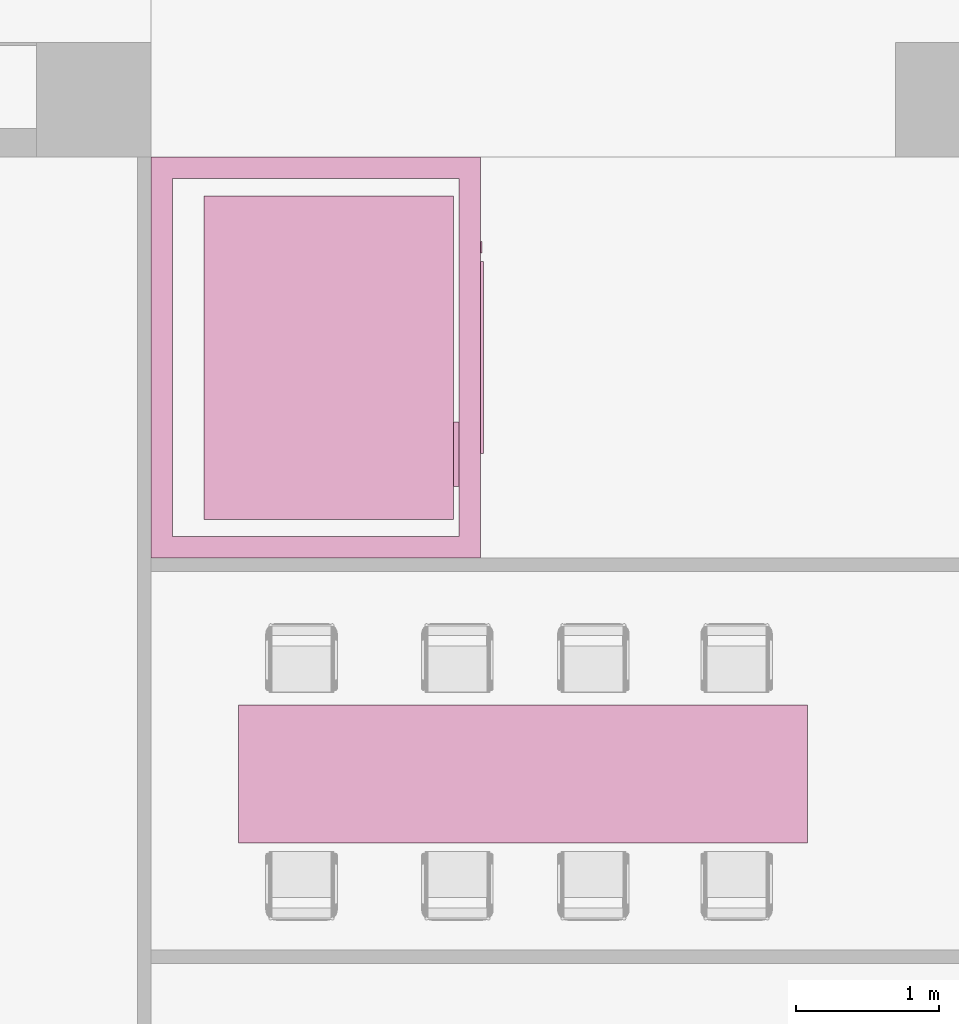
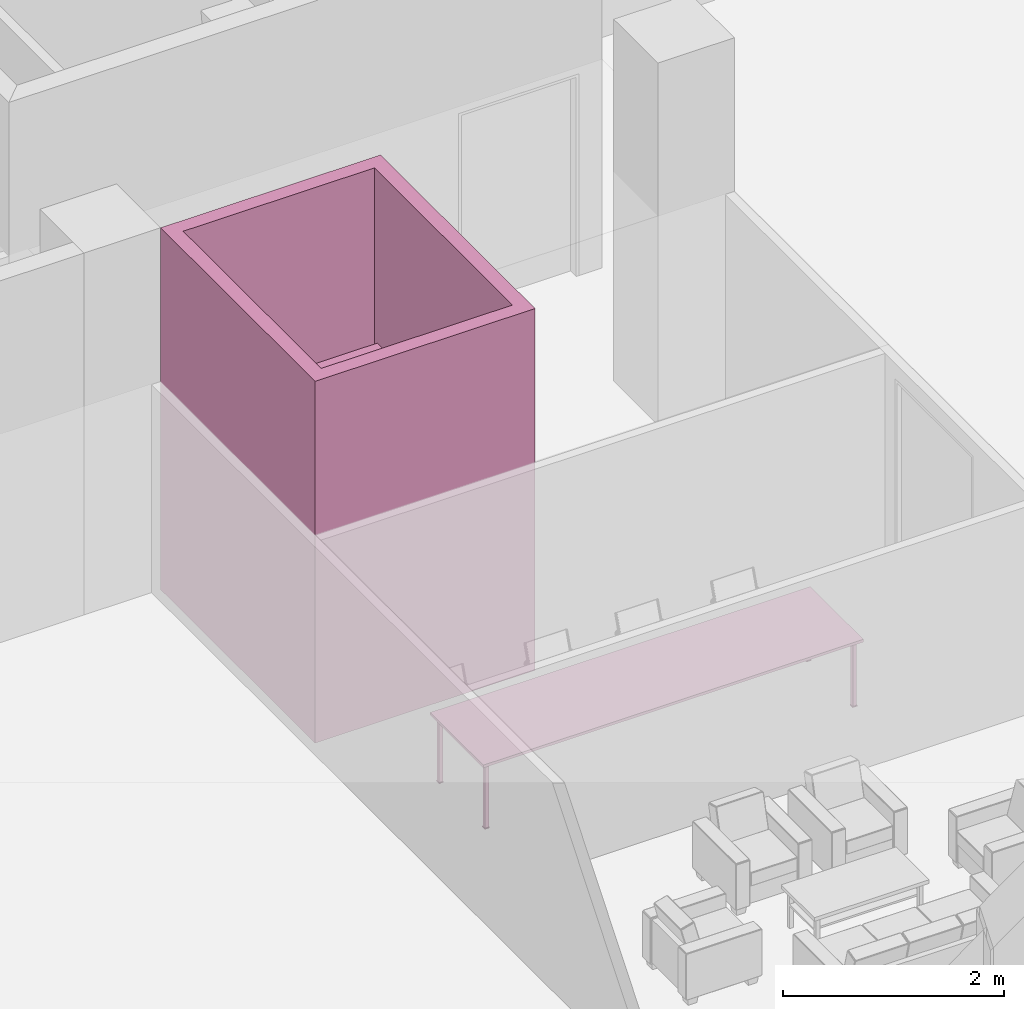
# One storey, part 12 of 17: 1 furnishing, 1 transport element.
"""IFC2X3 building model written with IfcOpenShell, lengths in millimetres."""

from ifc_helpers import new_model, entity, si_unit, converted_unit, direction, frame, origin_with_axes, place, context, project, spatial, faceted_brep, source, transform, mapped, material, type_object, element, save


model = new_model("IFC2X3")

# Units and contexts
model_context = context("Model", 3, precision=1e-05, world=origin_with_axes(), true_north=direction((0.0, 1.0)))
ifc_project = project(units=[si_unit("LENGTHUNIT", "METRE", prefix="MILLI"), si_unit("AREAUNIT", "SQUARE_METRE"), si_unit("VOLUMEUNIT", "CUBIC_METRE"), converted_unit("PLANEANGLEUNIT", "DEGREE", entity("IfcPlaneAngleMeasure", 0.017453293), si_unit("PLANEANGLEUNIT", "RADIAN"), dimensions=[0, 0, 0, 0, 0, 0, 0]), si_unit("SOLIDANGLEUNIT", "STERADIAN"), si_unit("MASSUNIT", "GRAM"), si_unit("TIMEUNIT", "SECOND"), si_unit("THERMODYNAMICTEMPERATUREUNIT", "DEGREE_CELSIUS"), si_unit("LUMINOUSINTENSITYUNIT", "LUMEN")], contexts=[model_context])

# Site, building, storey
site_placement = place(None, origin_with_axes())
site = spatial("IfcSite", under=ifc_project, at=site_placement, Name="\x83T\x83C\x83g", CompositionType="ELEMENT")
building_placement = place(site_placement, origin_with_axes())
building = spatial("IfcBuilding", under=site, at=building_placement, Name="Daitec-Sample 201208", CompositionType="ELEMENT")
storey_placement = place(building_placement, origin_with_axes())
storey = spatial("IfcBuildingStorey", under=building, at=storey_placement, Name="1F", CompositionType="ELEMENT", Elevation=0.0)

# Furnishing
ifc_material = material(Name="\x94w\x8ci")
furniture_type = type_object("IfcFurnitureType", AssemblyPlace="NOTDEFINED")
shared_shape = source(origin_with_axes(), model_context, "Body", "Brep", [
    faceted_brep([(0.0, 0.0, 750.0), (-3974.8938, 0.0, 750.0), (-3974.8938, 0.0, 720.0), (0.0, 0.0, 720.0), (0.0, 962.32139, 750.0), (-3974.8938, 962.32139, 750.0), (-3974.8938, 962.32139, 720.0), (0.0, 962.32139, 720.0)], [[[0, 1, 2, 3]], [[0, 4, 5, 1]], [[1, 5, 6, 2]], [[3, 2, 6, 7]], [[4, 0, 3, 7]], [[5, 4, 7, 6]]]),
    faceted_brep([(-85.0, 45.0, 10.0), (-85.0, 85.0, 10.0), (-45.0, 85.0, 10.0), (-45.0, 45.0, 10.0), (-85.0, 45.0, 720.0), (-85.0, 85.0, 720.0), (-45.0, 85.0, 720.0), (-45.0, 45.0, 720.0)], [[[0, 1, 2, 3]], [[0, 4, 5, 1]], [[1, 5, 6, 2]], [[2, 6, 7, 3]], [[3, 7, 4, 0]], [[7, 6, 5, 4]]]),
    faceted_brep([(-90.0, 40.0, 0.0), (-90.0, 90.0, 0.0), (-40.0, 90.0, 0.0), (-40.0, 40.0, 0.0), (-90.0, 40.0, 10.0), (-90.0, 90.0, 10.0), (-40.0, 90.0, 10.0), (-40.0, 40.0, 10.0)], [[[0, 1, 2, 3]], [[0, 4, 5, 1]], [[1, 5, 6, 2]], [[2, 6, 7, 3]], [[3, 7, 4, 0]], [[7, 6, 5, 4]]]),
    faceted_brep([(-3929.8938, 45.0, 10.0), (-3929.8938, 85.0, 10.0), (-3889.8938, 85.0, 10.0), (-3889.8938, 45.0, 10.0), (-3929.8938, 45.0, 720.0), (-3929.8938, 85.0, 720.0), (-3889.8938, 85.0, 720.0), (-3889.8938, 45.0, 720.0)], [[[0, 1, 2, 3]], [[0, 4, 5, 1]], [[1, 5, 6, 2]], [[2, 6, 7, 3]], [[3, 7, 4, 0]], [[7, 6, 5, 4]]]),
    faceted_brep([(-3934.8938, 40.0, 0.0), (-3934.8938, 90.0, 0.0), (-3884.8938, 90.0, 0.0), (-3884.8938, 40.0, 0.0), (-3934.8938, 40.0, 10.0), (-3934.8938, 90.0, 10.0), (-3884.8938, 90.0, 10.0), (-3884.8938, 40.0, 10.0)], [[[0, 1, 2, 3]], [[0, 4, 5, 1]], [[1, 5, 6, 2]], [[2, 6, 7, 3]], [[3, 7, 4, 0]], [[7, 6, 5, 4]]]),
    faceted_brep([(-3929.8938, 877.32139, 10.0), (-3929.8938, 917.32139, 10.0), (-3889.8938, 917.32139, 10.0), (-3889.8938, 877.32139, 10.0), (-3929.8938, 877.32139, 720.0), (-3929.8938, 917.32139, 720.0), (-3889.8938, 917.32139, 720.0), (-3889.8938, 877.32139, 720.0)], [[[0, 1, 2, 3]], [[0, 4, 5, 1]], [[1, 5, 6, 2]], [[2, 6, 7, 3]], [[3, 7, 4, 0]], [[7, 6, 5, 4]]]),
    faceted_brep([(-3934.8938, 872.32139, 0.0), (-3934.8938, 922.32139, 0.0), (-3884.8938, 922.32139, 0.0), (-3884.8938, 872.32139, 0.0), (-3934.8938, 872.32139, 10.0), (-3934.8938, 922.32139, 10.0), (-3884.8938, 922.32139, 10.0), (-3884.8938, 872.32139, 10.0)], [[[0, 1, 2, 3]], [[0, 4, 5, 1]], [[1, 5, 6, 2]], [[2, 6, 7, 3]], [[3, 7, 4, 0]], [[7, 6, 5, 4]]]),
    faceted_brep([(-85.0, 877.32139, 10.0), (-85.0, 917.32139, 10.0), (-45.0, 917.32139, 10.0), (-45.0, 877.32139, 10.0), (-85.0, 877.32139, 720.0), (-85.0, 917.32139, 720.0), (-45.0, 917.32139, 720.0), (-45.0, 877.32139, 720.0)], [[[0, 1, 2, 3]], [[0, 4, 5, 1]], [[1, 5, 6, 2]], [[2, 6, 7, 3]], [[3, 7, 4, 0]], [[7, 6, 5, 4]]]),
    faceted_brep([(-90.0, 872.32139, 0.0), (-90.0, 922.32139, 0.0), (-40.0, 922.32139, 0.0), (-40.0, 872.32139, 0.0), (-90.0, 872.32139, 10.0), (-90.0, 922.32139, 10.0), (-40.0, 922.32139, 10.0), (-40.0, 872.32139, 10.0)], [[[0, 1, 2, 3]], [[0, 4, 5, 1]], [[1, 5, 6, 2]], [[2, 6, 7, 3]], [[3, 7, 4, 0]], [[7, 6, 5, 4]]]),
])
furnishing_placement = place(storey_placement, frame((25509.13, 14172.327, 0.0), z_axis=(0.0, 0.0, 1.0), x_axis=(-1.0, 0.0, 0.0)))
element("IfcFurnishingElement", 1, at=furnishing_placement, inside=storey, type_object=furniture_type, material=ifc_material, Name="O2", context=model_context, shape_type="MappedRepresentation", body=[
    mapped(shared_shape, transform((0.0, 0.0, 0.0))),
])

# Transport element
transport_element_placement = place(storey_placement, frame((27200.0, 15200.0, 0.0), z_axis=(0.0, 0.0, 1.0), x_axis=(0.0, 1.0, 0.0)))
element("IfcTransportElement", 2, at=transport_element_placement, inside=storey, material=ifc_material, Name="O1", OperationType="NOTDEFINED", context=model_context, shape_type="Brep", body=[
    faceted_brep([(950.0, 210.0, 0.0), (500.0, 210.0, 0.0), (500.0, 210.0, 2000.0), (950.0, 210.0, 2000.0), (950.0, 190.0, 0.0), (500.0, 190.0, 0.0), (500.0, 190.0, 2000.0), (950.0, 190.0, 2000.0)], [[[0, 1, 2, 3]], [[1, 0, 4, 5]], [[2, 1, 5, 6]], [[3, 2, 6, 7]], [[0, 3, 7, 4]], [[5, 4, 7, 6]]]),
    faceted_brep([(950.0, 230.0, 0.0), (500.0, 230.0, 0.0), (500.0, 230.0, 2000.0), (950.0, 230.0, 2000.0), (950.0, 210.0, 0.0), (500.0, 210.0, 0.0), (500.0, 210.0, 2000.0), (950.0, 210.0, 2000.0)], [[[0, 1, 2, 3]], [[1, 0, 4, 5]], [[2, 1, 5, 6]], [[3, 2, 6, 7]], [[0, 3, 7, 4]], [[5, 4, 7, 6]]]),
    faceted_brep([(350.0, 270.0, 0.0), (950.0, 270.0, 0.0), (950.0, 230.0, 0.0), (500.0, 230.0, 0.0), (500.0, 190.0, 0.0), (270.0, 190.0, 0.0), (270.0, 1930.0, 0.0), (2530.0, 1930.0, 0.0), (2530.0, 190.0, 0.0), (1850.0, 190.0, 0.0), (1850.0, 270.0, 0.0), (2450.0, 270.0, 0.0), (2450.0, 1850.0, 0.0), (350.0, 1850.0, 0.0), (350.0, 270.0, 2100.0), (2450.0, 270.0, 2100.0), (1850.0, 270.0, 2000.0), (950.0, 270.0, 2000.0), (950.0, 230.0, 2000.0), (500.0, 230.0, 2000.0), (500.0, 190.0, 2000.0), (1850.0, 190.0, 2000.0), (2530.0, 190.0, 2100.0), (270.0, 190.0, 2100.0), (270.0, 1930.0, 2100.0), (2530.0, 1930.0, 2100.0), (2450.0, 1850.0, 2100.0), (350.0, 1850.0, 2100.0)], [[[0, 1, 2, 3, 4, 5, 6, 7, 8, 9, 10, 11, 12, 13]], [[14, 15, 11, 10, 16, 17, 1, 0]], [[1, 17, 18, 2]], [[3, 2, 18, 19]], [[3, 19, 20, 4]], [[20, 21, 9, 8, 22, 23, 5, 4]], [[5, 23, 24, 6]], [[6, 24, 25, 7]], [[7, 25, 22, 8]], [[16, 10, 9, 21]], [[15, 26, 12, 11]], [[26, 27, 13, 12]], [[27, 14, 0, 13]], [[22, 25, 24, 23], [27, 26, 15, 14]], [[17, 16, 21, 20, 19, 18]]]),
    faceted_brep([(270.0, 190.0, -50.0), (2530.0, 190.0, -50.0), (2530.0, 190.0, 0.0), (270.0, 190.0, 0.0), (270.0, 1930.0, -50.0), (2530.0, 1930.0, -50.0), (2530.0, 1930.0, 0.0), (270.0, 1930.0, 0.0)], [[[0, 1, 2, 3]], [[0, 4, 5, 1]], [[1, 5, 6, 2]], [[3, 2, 6, 7]], [[4, 0, 3, 7]], [[5, 4, 7, 6]]]),
    faceted_brep([(270.0, 190.0, 2100.0), (2530.0, 190.0, 2100.0), (2530.0, 190.0, 2150.0), (270.0, 190.0, 2150.0), (270.0, 1930.0, 2100.0), (2530.0, 1930.0, 2100.0), (2530.0, 1930.0, 2150.0), (270.0, 1930.0, 2150.0)], [[[0, 1, 2, 3]], [[0, 4, 5, 1]], [[1, 5, 6, 2]], [[3, 2, 6, 7]], [[4, 0, 3, 7]], [[5, 4, 7, 6]]]),
    faceted_brep([(2450.0, 370.0, 1000.0), (2450.0, 470.0, 1000.0), (2450.0, 470.0, 1075.0), (2450.0, 370.0, 1075.0), (2440.0, 370.0, 1000.0), (2440.0, 470.0, 1000.0), (2440.0, 470.0, 1075.0), (2440.0, 370.0, 1075.0)], [[[0, 1, 2, 3]], [[1, 0, 4, 5]], [[2, 1, 5, 6]], [[3, 2, 6, 7]], [[0, 3, 7, 4]], [[5, 4, 7, 6]]]),
    faceted_brep([(2440.0, 450.42893, 1005.4289), (2440.0, 450.42893, 1019.5711), (2435.0, 451.84315, 1018.1569), (2435.0, 451.84315, 1006.8431), (2440.0, 464.57107, 1005.4289), (2440.0, 464.57107, 1019.5711), (2435.0, 463.15685, 1018.1569), (2435.0, 463.15685, 1006.8431)], [[[0, 1, 2, 3]], [[0, 4, 5, 1]], [[1, 5, 6, 2]], [[3, 2, 6, 7]], [[4, 0, 3, 7]], [[5, 4, 7, 6]]]),
    faceted_brep([(2440.0, 425.42893, 1005.4289), (2440.0, 425.42893, 1019.5711), (2435.0, 426.84315, 1018.1569), (2435.0, 426.84315, 1006.8431), (2440.0, 439.57107, 1005.4289), (2440.0, 439.57107, 1019.5711), (2435.0, 438.15685, 1018.1569), (2435.0, 438.15685, 1006.8431)], [[[0, 1, 2, 3]], [[0, 4, 5, 1]], [[1, 5, 6, 2]], [[3, 2, 6, 7]], [[4, 0, 3, 7]], [[5, 4, 7, 6]]]),
    faceted_brep([(2440.0, 400.42893, 1005.4289), (2440.0, 400.42893, 1019.5711), (2435.0, 401.84315, 1018.1569), (2435.0, 401.84315, 1006.8431), (2440.0, 414.57107, 1005.4289), (2440.0, 414.57107, 1019.5711), (2435.0, 413.15685, 1018.1569), (2435.0, 413.15685, 1006.8431)], [[[0, 1, 2, 3]], [[0, 4, 5, 1]], [[1, 5, 6, 2]], [[3, 2, 6, 7]], [[4, 0, 3, 7]], [[5, 4, 7, 6]]]),
    faceted_brep([(2440.0, 375.42893, 1005.4289), (2440.0, 375.42893, 1019.5711), (2435.0, 376.84315, 1018.1569), (2435.0, 376.84315, 1006.8431), (2440.0, 389.57107, 1005.4289), (2440.0, 389.57107, 1019.5711), (2435.0, 388.15685, 1018.1569), (2435.0, 388.15685, 1006.8431)], [[[0, 1, 2, 3]], [[0, 4, 5, 1]], [[1, 5, 6, 2]], [[3, 2, 6, 7]], [[4, 0, 3, 7]], [[5, 4, 7, 6]]]),
    faceted_brep([(2440.0, 450.42893, 1055.4289), (2440.0, 450.42893, 1069.5711), (2435.0, 451.84315, 1068.1569), (2435.0, 451.84315, 1056.8431), (2440.0, 464.57107, 1055.4289), (2440.0, 464.57107, 1069.5711), (2435.0, 463.15685, 1068.1569), (2435.0, 463.15685, 1056.8431)], [[[0, 1, 2, 3]], [[0, 4, 5, 1]], [[1, 5, 6, 2]], [[3, 2, 6, 7]], [[4, 0, 3, 7]], [[5, 4, 7, 6]]]),
    faceted_brep([(770.0, 150.0, 0.0), (950.0, 150.0, 0.0), (950.0, 90.0, 0.0), (770.0, 90.0, 0.0), (770.0, 150.0, 2180.0), (2030.0, 150.0, 2180.0), (2030.0, 150.0, 0.0), (1850.0, 150.0, 0.0), (1850.0, 150.0, 2000.0), (950.0, 150.0, 2000.0), (950.0, 90.0, 2000.0), (1850.0, 90.0, 2000.0), (1850.0, 90.0, 0.0), (2030.0, 90.0, 0.0), (2030.0, 90.0, 2180.0), (770.0, 90.0, 2180.0)], [[[0, 1, 2, 3]], [[0, 4, 5, 6, 7, 8, 9, 1]], [[1, 9, 10, 2]], [[3, 2, 10, 11, 12, 13, 14, 15]], [[4, 0, 3, 15]], [[5, 4, 15, 14]], [[6, 5, 14, 13]], [[7, 6, 13, 12]], [[8, 7, 12, 11]], [[9, 8, 11, 10]]]),
    faceted_brep([(770.0, 90.0, 0.0), (790.0, 90.0, 0.0), (790.0, 0.0, 0.0), (770.0, 0.0, 0.0), (770.0, 90.0, 2180.0), (2030.0, 90.0, 2180.0), (2030.0, 90.0, 0.0), (2010.0, 90.0, 0.0), (2010.0, 90.0, 2160.0), (790.0, 90.0, 2160.0), (790.0, 0.0, 2160.0), (2010.0, 0.0, 2160.0), (2010.0, 0.0, 0.0), (2030.0, 0.0, 0.0), (2030.0, 0.0, 2180.0), (770.0, 0.0, 2180.0)], [[[0, 1, 2, 3]], [[0, 4, 5, 6, 7, 8, 9, 1]], [[1, 9, 10, 2]], [[3, 2, 10, 11, 12, 13, 14, 15]], [[4, 0, 3, 15]], [[5, 4, 15, 14]], [[6, 5, 14, 13]], [[7, 6, 13, 12]], [[8, 7, 12, 11]], [[9, 8, 11, 10]]]),
    faceted_brep([(730.0, 0.0, 0.0), (790.0, 0.0, 0.0), (790.0, -20.0, 0.0), (730.0, -20.0, 0.0), (730.0, 0.0, 2220.0), (2070.0, 0.0, 2220.0), (2070.0, 0.0, 0.0), (2010.0, 0.0, 0.0), (2010.0, 0.0, 2160.0), (790.0, 0.0, 2160.0), (790.0, -20.0, 2160.0), (2010.0, -20.0, 2160.0), (2010.0, -20.0, 0.0), (2070.0, -20.0, 0.0), (2070.0, -20.0, 2220.0), (730.0, -20.0, 2220.0)], [[[0, 1, 2, 3]], [[0, 4, 5, 6, 7, 8, 9, 1]], [[1, 9, 10, 2]], [[3, 2, 10, 11, 12, 13, 14, 15]], [[4, 0, 3, 15]], [[5, 4, 15, 14]], [[6, 5, 14, 13]], [[7, 6, 13, 12]], [[8, 7, 12, 11]], [[9, 8, 11, 10]]]),
    faceted_brep([(950.0, 170.0, 0.0), (500.0, 170.0, 0.0), (500.0, 170.0, 2000.0), (950.0, 170.0, 2000.0), (950.0, 150.0, 0.0), (500.0, 150.0, 0.0), (500.0, 150.0, 2000.0), (950.0, 150.0, 2000.0)], [[[0, 1, 2, 3]], [[1, 0, 4, 5]], [[2, 1, 5, 6]], [[3, 2, 6, 7]], [[0, 3, 7, 4]], [[5, 4, 7, 6]]]),
    faceted_brep([(950.0, 190.0, 0.0), (500.0, 190.0, 0.0), (500.0, 190.0, 2000.0), (950.0, 190.0, 2000.0), (950.0, 170.0, 0.0), (500.0, 170.0, 0.0), (500.0, 170.0, 2000.0), (950.0, 170.0, 2000.0)], [[[0, 1, 2, 3]], [[1, 0, 4, 5]], [[2, 1, 5, 6]], [[3, 2, 6, 7]], [[0, 3, 7, 4]], [[5, 4, 7, 6]]]),
    faceted_brep([(2210.0, 0.0, 1000.0), (2130.0, 0.0, 1000.0), (2130.0, 0.0, 1100.0), (2210.0, 0.0, 1100.0), (2210.0, -10.0, 1000.0), (2130.0, -10.0, 1000.0), (2130.0, -10.0, 1100.0), (2210.0, -10.0, 1100.0)], [[[0, 1, 2, 3]], [[1, 0, 4, 5]], [[2, 1, 5, 6]], [[3, 2, 6, 7]], [[0, 3, 7, 4]], [[5, 4, 7, 6]]]),
    faceted_brep([(150.0, 150.0, 0.0), (770.0, 150.0, 0.0), (770.0, 0.0, 0.0), (0.0, 0.0, 0.0), (0.0, 2300.0, 0.0), (2800.0, 2300.0, 0.0), (2800.0, 0.0, 0.0), (2030.0, 0.0, 0.0), (2030.0, 150.0, 0.0), (2650.0, 150.0, 0.0), (2650.0, 2150.0, 0.0), (150.0, 2150.0, 0.0), (150.0, 150.0, 4000.0), (2650.0, 150.0, 4000.0), (2030.0, 150.0, 2180.0), (770.0, 150.0, 2180.0), (770.0, 0.0, 2180.0), (2030.0, 0.0, 2180.0), (2800.0, 0.0, 4000.0), (0.0, 0.0, 4000.0), (0.0, 2300.0, 4000.0), (2800.0, 2300.0, 4000.0), (2650.0, 2150.0, 4000.0), (150.0, 2150.0, 4000.0)], [[[0, 1, 2, 3, 4, 5, 6, 7, 8, 9, 10, 11]], [[12, 13, 9, 8, 14, 15, 1, 0]], [[1, 15, 16, 2]], [[3, 2, 16, 17, 7, 6, 18, 19]], [[19, 20, 4, 3]], [[20, 21, 5, 4]], [[21, 18, 6, 5]], [[14, 8, 7, 17]], [[13, 22, 10, 9]], [[22, 23, 11, 10]], [[23, 12, 0, 11]], [[21, 20, 19, 18], [23, 22, 13, 12]], [[15, 14, 17, 16]]]),
])

save(model, "model.ifc")
